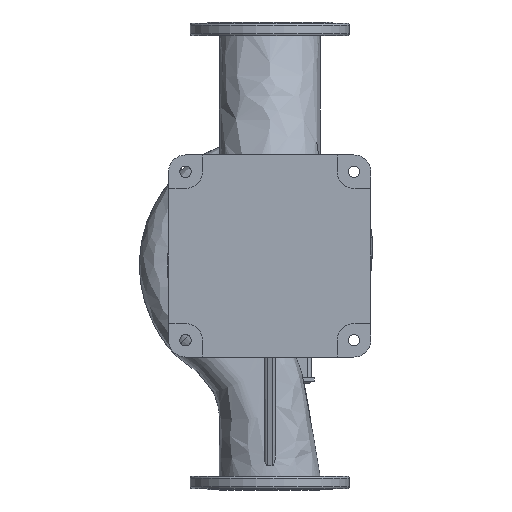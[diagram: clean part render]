
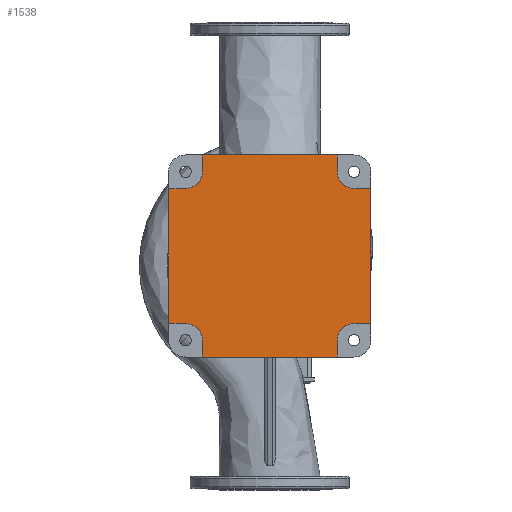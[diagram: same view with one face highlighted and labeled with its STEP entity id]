
A CAD part, front view. The second image highlights one B-rep face of the part: STEP entity #1538.
In plain terms, the highlighted planar face has unit normal (0, -1, 0).
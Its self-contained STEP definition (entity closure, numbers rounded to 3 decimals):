
#338 = VERTEX_POINT ( 'NONE', #22964 ) ;
#697 = CARTESIAN_POINT ( 'NONE',  ( 180., -265., -144. ) ) ;
#1150 = ORIENTED_EDGE ( 'NONE', *, *, #13714, .T. ) ;
#1172 = CIRCLE ( 'NONE', #17920, 36. ) ;
#1538 = ADVANCED_FACE ( 'NONE', ( #5799 ), #28613, .F. ) ;
#2693 = CARTESIAN_POINT ( 'NONE',  ( 216., -265., 144. ) ) ;
#2728 = ORIENTED_EDGE ( 'NONE', *, *, #15044, .T. ) ;
#2733 = CARTESIAN_POINT ( 'NONE',  ( -144., -265., 216. ) ) ;
#3069 = LINE ( 'NONE', #697, #9583 ) ;
#3090 = DIRECTION ( 'NONE',  ( 0., 1., 0. ) ) ;
#3375 = LINE ( 'NONE', #2693, #29209 ) ;
#3491 = CARTESIAN_POINT ( 'NONE',  ( -180., -265., -144. ) ) ;
#4093 = DIRECTION ( 'NONE',  ( 0., 1., 0. ) ) ;
#4815 = DIRECTION ( 'NONE',  ( 1., 0., 0. ) ) ;
#4856 = ORIENTED_EDGE ( 'NONE', *, *, #20174, .T. ) ;
#5400 = ORIENTED_EDGE ( 'NONE', *, *, #26359, .T. ) ;
#5437 = LINE ( 'NONE', #16409, #27782 ) ;
#5799 = FACE_OUTER_BOUND ( 'NONE', #21770, .T. ) ;
#5825 = VECTOR ( 'NONE', #6349, 1000. ) ;
#5860 = CARTESIAN_POINT ( 'NONE',  ( 180., -265., 180. ) ) ;
#5903 = DIRECTION ( 'NONE',  ( 0., 0., -1. ) ) ;
#6050 = VERTEX_POINT ( 'NONE', #13205 ) ;
#6349 = DIRECTION ( 'NONE',  ( 0., 0., -1. ) ) ;
#6590 = DIRECTION ( 'NONE',  ( -1., 0., 0. ) ) ;
#6846 = EDGE_CURVE ( 'NONE', #32816, #32260, #22763, .T. ) ;
#6934 = VERTEX_POINT ( 'NONE', #28265 ) ;
#7098 = AXIS2_PLACEMENT_3D ( 'NONE', #30105, #4093, #24399 ) ;
#7313 = EDGE_CURVE ( 'NONE', #8201, #6050, #1172, .T. ) ;
#7523 = EDGE_CURVE ( 'NONE', #25395, #18615, #3375, .T. ) ;
#8139 = DIRECTION ( 'NONE',  ( 1., 0., 0. ) ) ;
#8201 = VERTEX_POINT ( 'NONE', #3491 ) ;
#8367 = EDGE_CURVE ( 'NONE', #11782, #31139, #19970, .T. ) ;
#8474 = LINE ( 'NONE', #31786, #22020 ) ;
#8579 = ORIENTED_EDGE ( 'NONE', *, *, #7523, .T. ) ;
#8670 = AXIS2_PLACEMENT_3D ( 'NONE', #5860, #26817, #29346 ) ;
#8841 = DIRECTION ( 'NONE',  ( 0., 0., 1. ) ) ;
#8994 = DIRECTION ( 'NONE',  ( 0., 1., 0. ) ) ;
#9493 = VERTEX_POINT ( 'NONE', #27637 ) ;
#9576 = CARTESIAN_POINT ( 'NONE',  ( 144., -265., 180. ) ) ;
#9583 = VECTOR ( 'NONE', #8139, 1000. ) ;
#10003 = DIRECTION ( 'NONE',  ( 0., 0., 1. ) ) ;
#10161 = VECTOR ( 'NONE', #13595, 1000. ) ;
#10624 = CARTESIAN_POINT ( 'NONE',  ( 216., -265., -144. ) ) ;
#10786 = VECTOR ( 'NONE', #10003, 1000. ) ;
#11782 = VERTEX_POINT ( 'NONE', #16884 ) ;
#12008 = CARTESIAN_POINT ( 'NONE',  ( 144., -265., 180. ) ) ;
#12369 = LINE ( 'NONE', #27755, #10786 ) ;
#12893 = EDGE_CURVE ( 'NONE', #18615, #338, #12903, .T. ) ;
#12903 = LINE ( 'NONE', #15776, #10161 ) ;
#12952 = EDGE_CURVE ( 'NONE', #9493, #6934, #18759, .T. ) ;
#13140 = VECTOR ( 'NONE', #4815, 1000. ) ;
#13205 = CARTESIAN_POINT ( 'NONE',  ( -144., -265., -180. ) ) ;
#13338 = LINE ( 'NONE', #23653, #31547 ) ;
#13595 = DIRECTION ( 'NONE',  ( -1., 0., 0. ) ) ;
#13714 = EDGE_CURVE ( 'NONE', #14151, #28090, #30139, .T. ) ;
#14151 = VERTEX_POINT ( 'NONE', #21695 ) ;
#14483 = LINE ( 'NONE', #9576, #25962 ) ;
#14517 = EDGE_CURVE ( 'NONE', #6934, #25395, #3069, .T. ) ;
#14599 = ORIENTED_EDGE ( 'NONE', *, *, #23734, .T. ) ;
#15044 = EDGE_CURVE ( 'NONE', #25889, #21596, #15760, .T. ) ;
#15163 = ORIENTED_EDGE ( 'NONE', *, *, #25453, .T. ) ;
#15415 = DIRECTION ( 'NONE',  ( 1., 0., 0. ) ) ;
#15760 = LINE ( 'NONE', #26081, #16125 ) ;
#15762 = DIRECTION ( 'NONE',  ( 0., 0., 1. ) ) ;
#15776 = CARTESIAN_POINT ( 'NONE',  ( 180., -265., 144. ) ) ;
#15906 = DIRECTION ( 'NONE',  ( 0., 0., -1. ) ) ;
#15924 = ORIENTED_EDGE ( 'NONE', *, *, #7313, .T. ) ;
#16102 = CARTESIAN_POINT ( 'NONE',  ( -180., -265., -180. ) ) ;
#16125 = VECTOR ( 'NONE', #15415, 1000. ) ;
#16176 = ORIENTED_EDGE ( 'NONE', *, *, #8367, .T. ) ;
#16409 = CARTESIAN_POINT ( 'NONE',  ( -144., -265., 180. ) ) ;
#16571 = AXIS2_PLACEMENT_3D ( 'NONE', #19624, #8994, #8841 ) ;
#16884 = CARTESIAN_POINT ( 'NONE',  ( 144., -265., 216. ) ) ;
#17222 = DIRECTION ( 'NONE',  ( 0., 1., 0. ) ) ;
#17825 = LINE ( 'NONE', #20871, #13140 ) ;
#17920 = AXIS2_PLACEMENT_3D ( 'NONE', #25347, #17222, #33105 ) ;
#18245 = VERTEX_POINT ( 'NONE', #12008 ) ;
#18473 = EDGE_CURVE ( 'NONE', #32260, #14151, #8474, .T. ) ;
#18615 = VERTEX_POINT ( 'NONE', #22462 ) ;
#18759 = CIRCLE ( 'NONE', #16571, 36. ) ;
#19195 = ORIENTED_EDGE ( 'NONE', *, *, #14517, .T. ) ;
#19624 = CARTESIAN_POINT ( 'NONE',  ( 180., -265., -180. ) ) ;
#19970 = LINE ( 'NONE', #2733, #24857 ) ;
#20174 = EDGE_CURVE ( 'NONE', #21596, #9493, #12369, .T. ) ;
#20287 = ORIENTED_EDGE ( 'NONE', *, *, #20997, .T. ) ;
#20308 = DIRECTION ( 'NONE',  ( -1., 0., 0. ) ) ;
#20871 = CARTESIAN_POINT ( 'NONE',  ( -180., -265., -144. ) ) ;
#20997 = EDGE_CURVE ( 'NONE', #338, #18245, #23229, .T. ) ;
#21596 = VERTEX_POINT ( 'NONE', #31076 ) ;
#21695 = CARTESIAN_POINT ( 'NONE',  ( -216., -265., 144. ) ) ;
#21770 = EDGE_LOOP ( 'NONE', ( #15924, #15163, #2728, #4856, #24143, #19195, #8579, #25663, #20287, #32420, #16176, #5400, #23705, #22506, #1150, #14599 ) ) ;
#21826 = EDGE_CURVE ( 'NONE', #18245, #11782, #14483, .T. ) ;
#22020 = VECTOR ( 'NONE', #6590, 1000. ) ;
#22462 = CARTESIAN_POINT ( 'NONE',  ( 216., -265., 144. ) ) ;
#22506 = ORIENTED_EDGE ( 'NONE', *, *, #18473, .T. ) ;
#22763 = CIRCLE ( 'NONE', #7098, 36. ) ;
#22964 = CARTESIAN_POINT ( 'NONE',  ( 180., -265., 144. ) ) ;
#23229 = CIRCLE ( 'NONE', #8670, 36. ) ;
#23653 = CARTESIAN_POINT ( 'NONE',  ( -144., -265., -180. ) ) ;
#23705 = ORIENTED_EDGE ( 'NONE', *, *, #6846, .T. ) ;
#23734 = EDGE_CURVE ( 'NONE', #28090, #8201, #17825, .T. ) ;
#23786 = CARTESIAN_POINT ( 'NONE',  ( -144., -265., 180. ) ) ;
#24143 = ORIENTED_EDGE ( 'NONE', *, *, #12952, .T. ) ;
#24399 = DIRECTION ( 'NONE',  ( 0., 0., 1. ) ) ;
#24857 = VECTOR ( 'NONE', #20308, 1000. ) ;
#25347 = CARTESIAN_POINT ( 'NONE',  ( -180., -265., -180. ) ) ;
#25395 = VERTEX_POINT ( 'NONE', #10624 ) ;
#25453 = EDGE_CURVE ( 'NONE', #6050, #25889, #13338, .T. ) ;
#25663 = ORIENTED_EDGE ( 'NONE', *, *, #12893, .T. ) ;
#25889 = VERTEX_POINT ( 'NONE', #31496 ) ;
#25924 = CARTESIAN_POINT ( 'NONE',  ( -144., -265., 216. ) ) ;
#25962 = VECTOR ( 'NONE', #27834, 1000. ) ;
#26081 = CARTESIAN_POINT ( 'NONE',  ( 144., -265., -216. ) ) ;
#26359 = EDGE_CURVE ( 'NONE', #31139, #32816, #5437, .T. ) ;
#26817 = DIRECTION ( 'NONE',  ( 0., 1., 0. ) ) ;
#27283 = CARTESIAN_POINT ( 'NONE',  ( -216., -265., -144. ) ) ;
#27637 = CARTESIAN_POINT ( 'NONE',  ( 144., -265., -180. ) ) ;
#27755 = CARTESIAN_POINT ( 'NONE',  ( 144., -265., -180. ) ) ;
#27782 = VECTOR ( 'NONE', #15906, 1000. ) ;
#27834 = DIRECTION ( 'NONE',  ( 0., 0., 1. ) ) ;
#28060 = AXIS2_PLACEMENT_3D ( 'NONE', #16102, #3090, #15762 ) ;
#28090 = VERTEX_POINT ( 'NONE', #30886 ) ;
#28265 = CARTESIAN_POINT ( 'NONE',  ( 180., -265., -144. ) ) ;
#28613 = PLANE ( 'NONE',  #28060 ) ;
#28897 = DIRECTION ( 'NONE',  ( 0., 0., 1. ) ) ;
#29209 = VECTOR ( 'NONE', #28897, 1000. ) ;
#29346 = DIRECTION ( 'NONE',  ( 0., 0., 1. ) ) ;
#30105 = CARTESIAN_POINT ( 'NONE',  ( -180., -265., 180. ) ) ;
#30139 = LINE ( 'NONE', #27283, #5825 ) ;
#30387 = CARTESIAN_POINT ( 'NONE',  ( -180., -265., 144. ) ) ;
#30886 = CARTESIAN_POINT ( 'NONE',  ( -216., -265., -144. ) ) ;
#31076 = CARTESIAN_POINT ( 'NONE',  ( 144., -265., -216. ) ) ;
#31139 = VERTEX_POINT ( 'NONE', #25924 ) ;
#31496 = CARTESIAN_POINT ( 'NONE',  ( -144., -265., -216. ) ) ;
#31547 = VECTOR ( 'NONE', #5903, 1000. ) ;
#31786 = CARTESIAN_POINT ( 'NONE',  ( -180., -265., 144. ) ) ;
#32260 = VERTEX_POINT ( 'NONE', #30387 ) ;
#32420 = ORIENTED_EDGE ( 'NONE', *, *, #21826, .T. ) ;
#32816 = VERTEX_POINT ( 'NONE', #23786 ) ;
#33105 = DIRECTION ( 'NONE',  ( 0., 0., 1. ) ) ;
